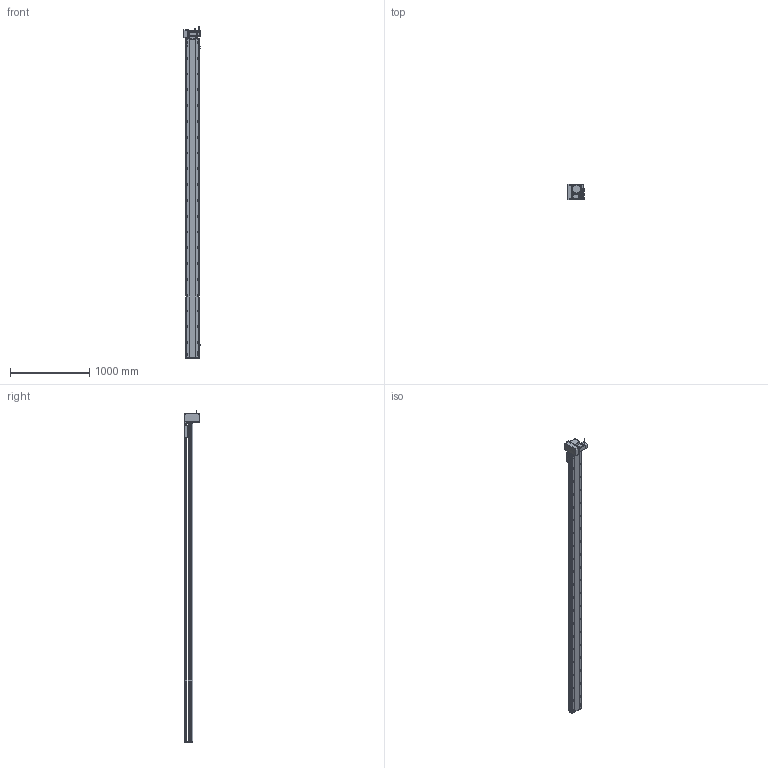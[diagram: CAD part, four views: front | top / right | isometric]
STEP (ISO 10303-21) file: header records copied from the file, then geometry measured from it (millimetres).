
FILE_DESCRIPTION (( 'STEP AP214' ), '1' );
FILE_NAME ('RTB17S-XX-3750-LM-M75-C4.STEP', '2025-12-12T00:54:06', ( '' ), ( '' ), 'SwSTEP 2.0', 'SolidWorks 2018', '' );
FILE_SCHEMA (( 'AUTOMOTIVE_DESIGN' ));
Length unit declared in the file: millimetre
Products named in the file (15): 750W萇儂^RTB17S-XX-XX-LM-M75-C4; RTB17S-賑釱^RTB17S-XX-XX-LM-M75-C4; RTB17S-L-014-T20-P75--々湍釱^RTB17S-LM-々湍釱蚾饜-750W_RTB17S-XX-XX-LM-M75-C4; RTB17S-L-001-耜醱啣^RTB17S-XX-XX-LM-M75-C4; RTB22S-GY-017P^RTB17S-LM-々湍釱蚾饜-750W_RTB17S-XX-XX-LM-M75-C4; RTB22S-GY-018P^RTB17S-LM-々湍釱蚾饜-750W_RTB17S-XX-XX-LM-M75-C4; RTB22S-GY-008-M75--萇儂啣^RTB17S-LM-々湍釱蚾饜-750W_RTB17S-XX-XX-LM-M75-C4; RTB17S-L-007奻裔^RTB17S-XX-XX-LM-M75-C4; RTH13-BL-012覜茼え俋离^RTB17S-賑釱_RTB17S-XX-XX-LM-M75-C4; RTB22S-GY-005P^RTB17S-LM-々湍釱蚾饜-750W_RTB17S-XX-XX-LM-M75-C4; RTB17S-L-004-賑釱^RTB17S-賑釱_RTB17S-XX-XX-LM-M75-C4; EE672^RTB17S-XX-XX-LM-M75-C4; RTB17S-LM-々湍釱蚾饜-750W^RTB17S-XX-XX-LM-M75-C4; RTB17-R-011菁釱^RTB17S-XX-XX-LM-M75-C4; RTB17S-XX-3750-LM-M75-C4
Assembly tree (17 placements, depth 3):
  RTB17S-XX-3750-LM-M75-C4
    RTB17-R-011菁釱^RTB17S-XX-XX-LM-M75-C4
    EE672^RTB17S-XX-XX-LM-M75-C4  x3
    RTB17S-L-001-耜醱啣^RTB17S-XX-XX-LM-M75-C4
    RTB17S-賑釱^RTB17S-XX-XX-LM-M75-C4
      RTB17S-L-004-賑釱^RTB17S-賑釱_RTB17S-XX-XX-LM-M75-C4
      RTH13-BL-012覜茼え俋离^RTB17S-賑釱_RTB17S-XX-XX-LM-M75-C4
    RTB17S-L-007奻裔^RTB17S-XX-XX-LM-M75-C4
    750W萇儂^RTB17S-XX-XX-LM-M75-C4
    RTB17S-LM-々湍釱蚾饜-750W^RTB17S-XX-XX-LM-M75-C4
      RTB17S-L-014-T20-P75--々湍釱^RTB17S-LM-々湍釱蚾饜-750W_RTB17S-XX-XX-LM-M75-C4
      RTB22S-GY-005P^RTB17S-LM-々湍釱蚾饜-750W_RTB17S-XX-XX-LM-M75-C4
      RTB22S-GY-017P^RTB17S-LM-々湍釱蚾饜-750W_RTB17S-XX-XX-LM-M75-C4  x2
      RTB22S-GY-008-M75--萇儂啣^RTB17S-LM-々湍釱蚾饜-750W_RTB17S-XX-XX-LM-M75-C4
      RTB22S-GY-018P^RTB17S-LM-々湍釱蚾饜-750W_RTB17S-XX-XX-LM-M75-C4
Bounding box: 210.4 x 200 x 4202.2 mm (x, y, z)
Volume: 29391825.9 mm3; surface area: 5448824.4 mm2
Topology: 17 solids, 17 shells, 2313 faces, 6538 edges, 4238 vertices
Faces by surface type: plane 998, cylinder 899, bspline 294, cone 110, sphere 8, torus 4
Entity records: 68854 total; most frequent: CARTESIAN_POINT 20602, ORIENTED_EDGE 9920, DIRECTION 9122, EDGE_CURVE 4960, AXIS2_PLACEMENT_3D 3258, VERTEX_POINT 3242, LINE 2606, VECTOR 2606
